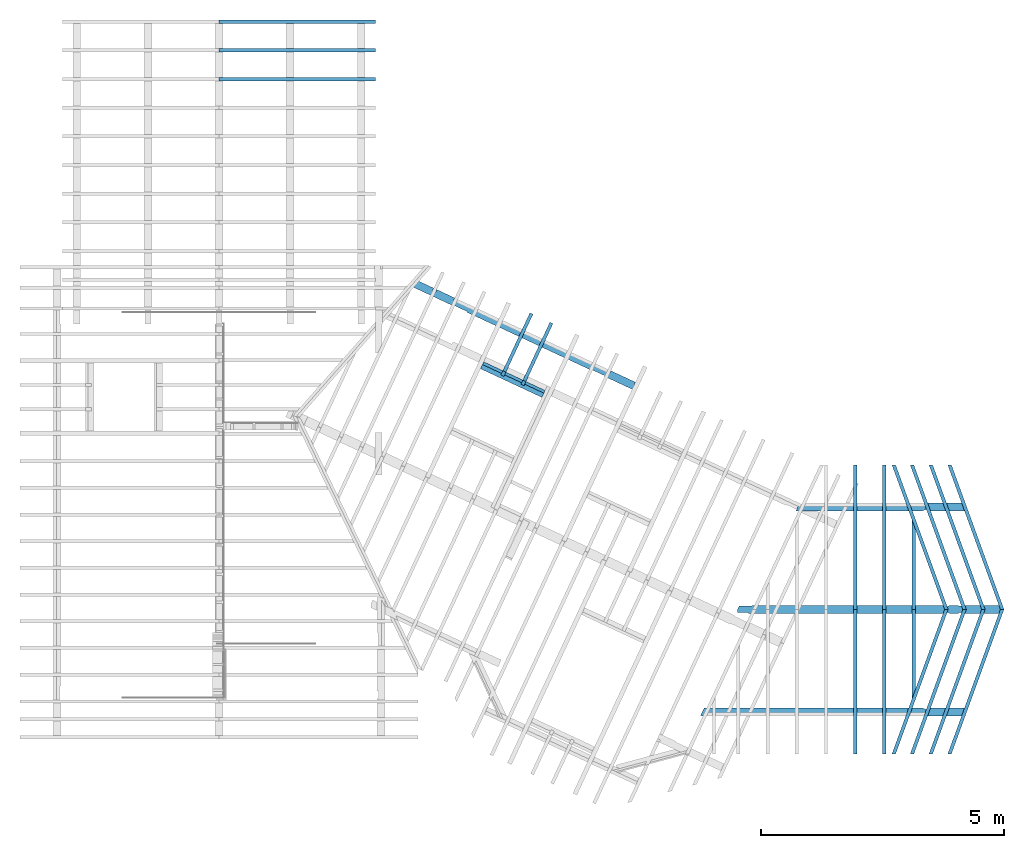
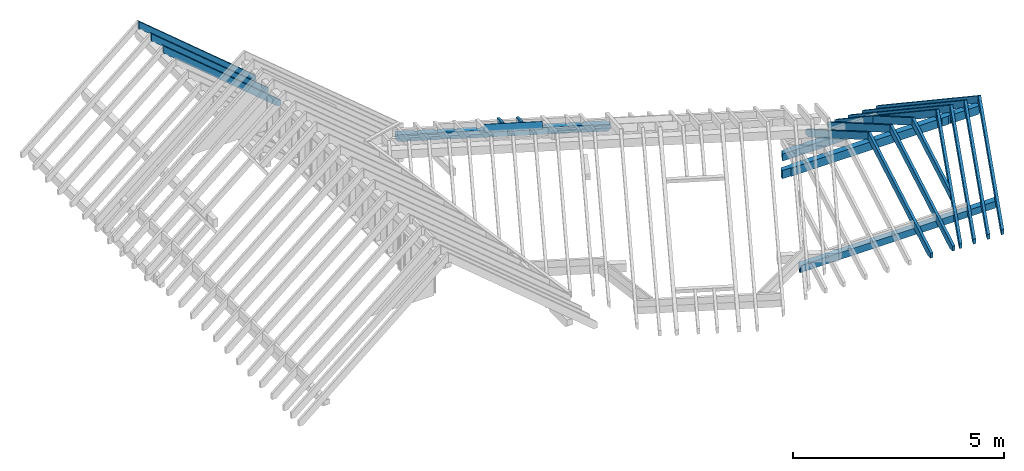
# One storey, part 7 of 11: 24 members.
"""IFC2X3 building model written with IfcOpenShell, lengths in metres."""

from ifc_helpers import new_model, si_unit, direction, frame, origin_with_axes, place, context, subcontext, project, spatial, faceted_brep, material, element, save


model = new_model("IFC2X3")

# Units and contexts
model_context = context("Model", 3, precision=1e-06, world=origin_with_axes(), true_north=direction((0.0, 1.0, 0.0)))
body_context = subcontext(model_context, "Body", "Model", "MODEL_VIEW")
ifc_project = project(units=[si_unit("LENGTHUNIT", "METRE"), si_unit("AREAUNIT", "SQUARE_METRE"), si_unit("VOLUMEUNIT", "CUBIC_METRE"), si_unit("PLANEANGLEUNIT", "RADIAN")], contexts=[model_context])

# Site, building, storey
site_placement = place(None, origin_with_axes())
site = spatial("IfcSite", under=ifc_project, at=site_placement, CompositionType="ELEMENT")
building_placement = place(site_placement, origin_with_axes())
building = spatial("IfcBuilding", under=site, at=building_placement, Name="Building 1", CompositionType="ELEMENT")
storey_placement = place(building_placement, origin_with_axes())
storey = spatial("IfcBuildingStorey", under=building, at=storey_placement, Name="Comble et couverture", CompositionType="ELEMENT", Elevation=0.0)

# Members
ifc_material = material(Name="NH II")
member_1_placement = place(storey_placement, frame((11.9552132, 6.3641322, 3.6128831), z_axis=(0.0, 0.0, 1.0), x_axis=(-0.9063078, 0.4226183, 0.0)))
element("IfcMember", 1, at=member_1_placement, inside=storey, material=ifc_material, Name="Panne", context=body_context, shape_type="Brep", body=[
    faceted_brep([(2.204806, -0.0284978, 0.1), (2.134806, -0.0284978, 0.1), (2.134806, -0.08, 0.0702652), (2.204806, -0.08, 0.0702652), (2.134806, -0.08, 0.1), (2.204806, -0.08, 0.1), (0.092, -0.08, 0.1), (0.092, -0.0285202, 0.1), (0.092, -0.08, 0.0702781), (0.0, -0.0285202, 0.1), (0.0, -0.08, 0.0702781), (1.631806, -0.08, 0.1), (2.588806, -0.08, 0.1), (2.588806, -0.0285258, 0.1), (2.658806, -0.0285258, 0.1), (2.658806, -0.08, 0.1), (3.091806, -0.08, 0.1), (3.091806, -0.0285538, 0.1), (3.183806, -0.0285538, 0.1), (3.183806, -0.08, 0.1), (3.6520107, -0.08, 0.1), (3.6520107, -0.0286209, 0.1), (3.7220107, -0.0286209, 0.1), (3.7220107, -0.08, 0.1), (4.116806, -0.08, 0.1), (4.116806, -0.0286209, 0.1), (4.186806, -0.0286209, 0.1), (4.186806, -0.08, 0.1), (4.5931996, -0.08, 0.1), (4.5931996, -0.0286041, 0.1), (4.6631996, -0.0286041, 0.1), (4.6631996, -0.08, 0.1), (5.1216218, -0.08, 0.1), (5.1216218, 0.08, 0.1), (4.115806, 0.08, 0.1), (4.115806, 0.065, 0.1), (3.835806, 0.065, 0.1), (3.835806, 0.08, 0.1), (0.995806, 0.08, 0.1), (0.995806, 0.065, 0.1), (0.715806, 0.065, 0.1), (0.715806, 0.08, 0.1), (0.0, 0.08, 0.1), (0.644806, -0.08, 0.1), (0.644806, -0.0286586, 0.1), (0.714806, -0.0286586, 0.1), (0.714806, -0.08, 0.1), (0.993806, -0.08, 0.1), (0.993806, -0.0286391, 0.1), (1.063806, -0.0286391, 0.1), (1.063806, -0.08, 0.1), (1.539806, -0.08, 0.1), (1.539806, -0.0284699, 0.1), (1.631806, -0.0284699, 0.1), (1.631806, -0.08, 0.0702491), (1.539806, -0.08, 0.0702491), (1.063806, -0.08, 0.0703468), (0.993806, -0.08, 0.0703468), (0.714806, -0.08, 0.070358), (0.644806, -0.08, 0.070358), (0.0, -0.08, -0.0333333), (0.0666667, -0.08, -0.1), (5.0549551, -0.08, -0.1), (5.1216218, -0.08, -0.0333333), (4.6631996, -0.08, 0.0703266), (4.5931996, -0.08, 0.0703266), (4.186806, -0.08, 0.0703362), (4.116806, -0.08, 0.0703362), (3.7220107, -0.08, 0.0703362), (3.6520107, -0.08, 0.0703362), (3.183806, -0.08, 0.0702975), (3.091806, -0.08, 0.0702975), (2.658806, -0.08, 0.0702814), (2.588806, -0.08, 0.0702814), (4.115806, 0.08, -0.1), (4.115806, 0.065, -0.1), (3.835806, 0.065, -0.1), (3.835806, 0.08, -0.1), (0.995806, 0.08, -0.1), (0.995806, 0.065, -0.1), (0.715806, 0.065, -0.1), (5.0549551, 0.08, -0.1), (0.0666667, 0.08, -0.1), (0.715806, 0.08, -0.1), (5.1216218, 0.08, -0.0333333), (0.0, 0.08, -0.0333333)], [[[0, 1, 2, 3]], [[1, 4, 2]], [[5, 0, 3]], [[6, 7, 8]], [[7, 9, 10, 8]], [[11, 4, 1, 0, 5, 12, 13, 14, 15, 16, 17, 18, 19, 20, 21, 22, 23, 24, 25, 26, 27, 28, 29, 30, 31, 32, 33, 34, 35, 36, 37, 38, 39, 40, 41, 42, 9, 7, 6, 43, 44, 45, 46, 47, 48, 49, 50, 51, 52, 53]], [[3, 2, 4, 11, 54, 55, 51, 50, 56, 57, 47, 46, 58, 59, 43, 6, 8, 10, 60, 61, 62, 63, 32, 31, 64, 65, 28, 27, 66, 67, 24, 23, 68, 69, 20, 19, 70, 71, 16, 15, 72, 73, 12, 5]], [[14, 13, 73, 72]], [[13, 12, 73]], [[15, 14, 72]], [[18, 17, 71, 70]], [[17, 16, 71]], [[19, 18, 70]], [[74, 75, 35, 34]], [[75, 76, 36, 35]], [[76, 77, 37, 36]], [[78, 79, 39, 38]], [[79, 80, 40, 39]], [[75, 74, 81, 62, 61, 82, 83, 80, 79, 78, 77, 76]], [[62, 81, 84, 63]], [[60, 85, 82, 61]], [[10, 9, 42, 85, 60]], [[11, 53, 54]], [[52, 51, 55]], [[53, 52, 55, 54]], [[46, 45, 58]], [[44, 43, 59]], [[45, 44, 59, 58]], [[50, 49, 56]], [[48, 47, 57]], [[49, 48, 57, 56]], [[23, 22, 68]], [[21, 20, 69]], [[22, 21, 69, 68]], [[27, 26, 66]], [[25, 24, 67]], [[26, 25, 67, 66]], [[31, 30, 64]], [[29, 28, 65]], [[30, 29, 65, 64]], [[63, 84, 33, 32]], [[80, 83, 41, 40]], [[41, 83, 82, 85, 42]], [[37, 77, 78, 38]], [[74, 34, 33, 84, 81]]]),
])
member_2_placement = place(storey_placement, frame((18.3486367, 4.8020575, 2.803611), z_axis=(-0.1630995, 0.4481121, 0.8789733), x_axis=(0.3006266, -0.8259647, 0.476871)))
element("IfcMember", 2, at=member_2_placement, inside=storey, material=ifc_material, Name="Chevron", context=body_context, shape_type="Brep", body=[
    faceted_brep([(0.0223944, 0.035, -0.0392061), (0.0, -0.035, -0.0270564), (0.066762, -0.035, 0.096), (0.0891564, 0.035, 0.0838503), (0.1270776, -0.035, -0.096), (0.9107993, -0.035, -0.096), (0.9234062, -0.035, -0.0727629), (0.9662371, -0.035, -0.096), (3.4593343, -0.035, -0.096), (3.4719412, -0.035, -0.0727629), (3.5147721, -0.035, -0.096), (3.5525586, -0.035, -0.096), (3.6567247, -0.035, 0.096), (0.1270776, 0.035, -0.096), (0.9397853, 0.035, -0.096), (3.6791191, 0.035, 0.0838503), (3.5815446, 0.035, -0.096), (3.5147721, 0.035, -0.096), (3.4943356, 0.035, -0.0849126), (3.4883203, 0.035, -0.096), (0.9662371, 0.035, -0.096), (0.9458006, 0.035, -0.0849126)], [[[0, 1, 2, 3]], [[2, 1, 4, 5, 6, 7, 8, 9, 10, 11, 12]], [[1, 0, 13, 4]], [[4, 13, 14, 5]], [[0, 3, 15, 16, 17, 18, 19, 20, 21, 14, 13]], [[3, 2, 12, 15]], [[14, 21, 6, 5]], [[21, 20, 7, 6]], [[7, 20, 19, 8]], [[15, 12, 11, 16]], [[19, 18, 9, 8]], [[18, 17, 10, 9]], [[16, 11, 10, 17]]]),
])
member_3_placement = place(storey_placement, frame((17.9628668, -1.1824983, 2.8036107), z_axis=(-0.1630995, -0.4481121, 0.8789733), x_axis=(0.3006266, 0.8259647, 0.476871)))
element("IfcMember", 3, at=member_3_placement, inside=storey, material=ifc_material, Name="Chevron", context=body_context, shape_type="Brep", body=[
    faceted_brep([(0.1270778, 0.035, -0.096), (0.1270778, -0.035, -0.096), (0.0223944, -0.035, -0.0392059), (0.0, 0.035, -0.0270563), (0.939786, -0.035, -0.096), (0.9458013, -0.035, -0.0849125), (0.9662378, -0.035, -0.096), (3.488321, -0.035, -0.096), (3.4943363, -0.035, -0.0849125), (3.5147728, -0.035, -0.096), (3.5815453, -0.035, -0.096), (3.6791198, -0.035, 0.0838503), (0.0891563, -0.035, 0.0838503), (0.9108, 0.035, -0.096), (0.0667619, 0.035, 0.096), (3.6567254, 0.035, 0.096), (3.5525593, 0.035, -0.096), (3.5147728, 0.035, -0.096), (3.4719419, 0.035, -0.0727628), (3.459335, 0.035, -0.096), (0.9662378, 0.035, -0.096), (0.9234069, 0.035, -0.0727629)], [[[0, 1, 2, 3]], [[2, 1, 4, 5, 6, 7, 8, 9, 10, 11, 12]], [[1, 0, 13, 4]], [[3, 2, 12, 14]], [[0, 3, 14, 15, 16, 17, 18, 19, 20, 21, 13]], [[14, 12, 11, 15]], [[13, 21, 5, 4]], [[21, 20, 6, 5]], [[15, 11, 10, 16]], [[6, 20, 19, 7]], [[9, 8, 18, 17]], [[8, 7, 19, 18]], [[16, 10, 9, 17]]]),
])
member_4_placement = place(storey_placement, frame((3.3033887, 13.29055, 5.0430385), z_axis=(0.6427876, 0.0, 0.7660444), x_axis=(0.7660444, 0.0, -0.6427876)))
element("IfcMember", 4, at=member_4_placement, inside=storey, material=ifc_material, Name="Chevron", context=body_context, shape_type="Brep", body=[
    faceted_brep([(0.0, 0.035, 0.0825), (0.0, -0.035, 0.0825), (4.1925587, -0.035, 0.0825), (4.1925587, 0.035, 0.0825), (0.2397267, -0.035, -0.0825), (0.2397267, 0.035, -0.0825), (4.2137207, 0.035, -0.0825), (4.2137207, -0.035, -0.0825), (0.1852763, -0.035, -0.0825), (0.2172291, -0.035, -0.0556884), (4.282549, -0.035, -0.0247462), (0.1384514, -0.035, -0.0825), (0.2172291, 0.035, -0.0556884), (0.1852763, 0.035, -0.0825), (0.1384514, 0.035, -0.0825), (4.282549, 0.035, -0.0247462)], [[[0, 1, 2, 3]], [[4, 5, 6, 7]], [[8, 9, 4, 7, 10, 2, 1, 11]], [[12, 13, 14, 0, 3, 15, 6, 5]], [[13, 12, 9, 8]], [[12, 5, 4, 9]], [[13, 8, 11, 14]], [[0, 14, 11, 1]], [[10, 15, 3, 2]], [[6, 15, 10, 7]]]),
])
member_5_placement = place(storey_placement, frame((13.2415605, -0.2952201, 3.08), z_axis=(0.0, 0.0, 1.0), x_axis=(1.0, 0.0, 0.0)))
element("IfcMember", 5, at=member_5_placement, inside=storey, material=ifc_material, Name="Panne", context=body_context, shape_type="Brep", body=[
    faceted_brep([(0.0044777, -0.0706342, -0.1), (0.0044777, -0.0706342, 0.1), (0.0001103, -0.08, 0.1), (0.0001103, -0.08, -0.1), (0.0, -0.08, 0.1), (0.0, -0.08, -0.1), (4.5613423, 0.08, 0.1), (0.0746092, 0.08, 0.1), (0.0245627, -0.08, 0.1), (0.2429925, -0.08, 0.1), (0.2429925, -0.0285537, 0.1), (0.3129925, -0.0285537, 0.1), (0.3129925, -0.08, 0.1), (0.7429925, -0.08, 0.1), (0.7429925, -0.0285537, 0.1), (0.8129925, -0.0285537, 0.1), (0.8129925, -0.08, 0.1), (1.3429925, -0.08, 0.1), (1.3429925, -0.0285537, 0.1), (1.4129925, -0.0285537, 0.1), (1.4129925, -0.08, 0.1), (1.9429925, -0.08, 0.1), (1.9429925, -0.0285537, 0.1), (2.0129925, -0.0285537, 0.1), (2.0129925, -0.08, 0.1), (2.5429925, -0.08, 0.1), (2.5429925, -0.0285537, 0.1), (2.6129925, -0.0285537, 0.1), (2.6129925, -0.08, 0.1), (3.1429925, -0.08, 0.1), (3.1429925, -0.0285537, 0.1), (3.2129925, -0.0285537, 0.1), (3.2129925, -0.08, 0.1), (3.7429925, -0.08, 0.1), (3.7429925, -0.0285537, 0.1), (3.8129925, -0.0285537, 0.1), (3.8129925, -0.08, 0.1), (5.4381473, -0.08, 0.1), (5.4963826, 0.08, 0.1), (4.6492867, 0.08, 0.1), (4.6389991, 0.0517352, 0.1), (0.0245627, -0.08, -0.1), (5.3672021, -0.08, -0.1), (5.4381473, -0.08, -0.0333333), (3.8129925, -0.08, 0.0702975), (3.7429925, -0.08, 0.0702975), (3.2129925, -0.08, 0.0702975), (3.1429925, -0.08, 0.0702975), (2.6129925, -0.08, 0.0702975), (2.5429925, -0.08, 0.0702975), (2.0129925, -0.08, 0.0702975), (1.9429925, -0.08, 0.0702975), (1.4129925, -0.08, 0.0702975), (1.3429925, -0.08, 0.0702975), (0.8129925, -0.08, 0.0702975), (0.7429925, -0.08, 0.0702975), (0.3129925, -0.08, 0.0702975), (0.2429925, -0.08, 0.0702975), (0.0746092, 0.08, -0.1), (4.5613423, 0.08, -0.1), (4.6389991, 0.0517352, -0.1), (4.6492867, 0.08, -0.1), (5.4254374, 0.08, -0.1), (5.4963826, 0.08, -0.0333333)], [[[0, 1, 2, 3]], [[4, 5, 3, 2]], [[6, 7, 4, 2, 1, 8, 9, 10, 11, 12, 13, 14, 15, 16, 17, 18, 19, 20, 21, 22, 23, 24, 25, 26, 27, 28, 29, 30, 31, 32, 33, 34, 35, 36, 37, 38, 39, 40]], [[1, 0, 41, 8]], [[8, 41, 42, 43, 37, 36, 44, 45, 33, 32, 46, 47, 29, 28, 48, 49, 25, 24, 50, 51, 21, 20, 52, 53, 17, 16, 54, 55, 13, 12, 56, 57, 9]], [[41, 0, 3, 5, 58, 59, 60, 61, 62, 42]], [[60, 59, 6, 40]], [[61, 60, 40, 39]], [[59, 58, 7, 6]], [[61, 39, 38, 63, 62]], [[43, 42, 62, 63]], [[58, 5, 4, 7]], [[36, 35, 44]], [[34, 33, 45]], [[35, 34, 45, 44]], [[32, 31, 46]], [[30, 29, 47]], [[31, 30, 47, 46]], [[28, 27, 48]], [[26, 25, 49]], [[27, 26, 49, 48]], [[24, 23, 50]], [[22, 21, 51]], [[23, 22, 51, 50]], [[20, 19, 52]], [[18, 17, 53]], [[19, 18, 53, 52]], [[13, 55, 14]], [[55, 54, 15, 14]], [[54, 16, 15]], [[9, 57, 10]], [[57, 56, 11, 10]], [[56, 12, 11]], [[43, 63, 38, 37]]]),
])
member_6_placement = place(storey_placement, frame((16.419553, 1.76478, 4.5486398), z_axis=(0.0, 0.5, 0.8660254), x_axis=(0.0, 0.8660254, -0.5)))
element("IfcMember", 6, at=member_6_placement, inside=storey, material=ifc_material, Name="Chevron", context=body_context, shape_type="Brep", body=[
    faceted_brep([(0.0, 0.035, 0.096), (0.0, -0.035, 0.096), (3.4238981, -0.035, 0.096), (3.4238981, 0.035, 0.096), (0.1108513, -0.035, -0.096), (0.1603581, -0.035, -0.096), (0.1899119, -0.035, -0.0789371), (0.1997631, -0.035, -0.096), (3.3713443, -0.035, -0.096), (3.4938981, -0.035, -0.0252436), (0.1108513, 0.035, -0.096), (3.4938981, 0.035, -0.0252436), (3.3713443, 0.035, -0.096), (0.1997631, 0.035, -0.096), (0.1899119, 0.035, -0.0789371), (0.1603581, 0.035, -0.096)], [[[0, 1, 2, 3]], [[1, 4, 5, 6, 7, 8, 9, 2]], [[10, 0, 3, 11, 12, 13, 14, 15]], [[7, 13, 12, 8]], [[4, 1, 0, 10]], [[15, 14, 6, 5]], [[14, 13, 7, 6]], [[4, 10, 15, 5]], [[9, 11, 3, 2]], [[8, 12, 11, 9]]]),
])
member_7_placement = place(storey_placement, frame((17.619553, 1.76478, 4.5486398), z_axis=(0.0, 0.5, 0.8660254), x_axis=(0.0, 0.8660254, -0.5)))
element("IfcMember", 7, at=member_7_placement, inside=storey, material=ifc_material, Name="Chevron", context=body_context, shape_type="Brep", body=[
    faceted_brep([(0.1108513, -0.035, -0.096), (0.0, -0.035, 0.096), (0.0, 0.035, 0.096), (0.1108513, 0.035, -0.096), (1.9000441, -0.035, 0.096), (2.12212, 0.035, 0.096), (0.1603581, -0.035, -0.096), (0.1899119, -0.035, -0.0789371), (0.1997631, -0.035, -0.096), (2.0108953, -0.035, -0.096), (0.1603581, 0.035, -0.096), (0.1899119, 0.035, -0.0789371), (0.1997631, 0.035, -0.096), (2.2329713, 0.035, -0.096)], [[[0, 1, 2, 3]], [[2, 1, 4, 5]], [[1, 0, 6, 7, 8, 9, 4]], [[10, 11, 7, 6]], [[11, 12, 8, 7]], [[8, 12, 13, 9]], [[0, 3, 10, 6]], [[13, 5, 4, 9]], [[3, 2, 5, 13, 12, 11, 10]]]),
])
member_8_placement = place(storey_placement, frame((17.019553, 1.8547799, 4.5486399), z_axis=(0.0, -0.5, 0.8660254), x_axis=(0.0, -0.8660254, -0.5)))
element("IfcMember", 8, at=member_8_placement, inside=storey, material=ifc_material, Name="Chevron", context=body_context, shape_type="Brep", body=[
    faceted_brep([(0.0, 0.035, 0.096), (0.0, -0.035, 0.096), (3.4238981, -0.035, 0.096), (3.4238981, 0.035, 0.096), (0.1108513, -0.035, -0.096), (0.1603581, -0.035, -0.096), (0.1899119, -0.035, -0.0789371), (0.1997631, -0.035, -0.096), (3.3713443, -0.035, -0.096), (3.4938981, -0.035, -0.0252436), (0.1108513, 0.035, -0.096), (3.4938981, 0.035, -0.0252436), (3.3713443, 0.035, -0.096), (0.1997631, 0.035, -0.096), (0.1899119, 0.035, -0.0789371), (0.1603581, 0.035, -0.096)], [[[0, 1, 2, 3]], [[1, 4, 5, 6, 7, 8, 9, 2]], [[10, 0, 3, 11, 12, 13, 14, 15]], [[7, 13, 12, 8]], [[10, 4, 1, 0]], [[4, 10, 15, 5]], [[7, 6, 14, 13]], [[6, 5, 15, 14]], [[9, 11, 3, 2]], [[8, 12, 11, 9]]]),
])
member_9_placement = place(storey_placement, frame((17.5770971, -1.1824983, 2.8036107), z_axis=(-0.1630995, -0.4481121, 0.8789733), x_axis=(0.3006266, 0.8259647, 0.476871)))
element("IfcMember", 9, at=member_9_placement, inside=storey, material=ifc_material, Name="Chevron", context=body_context, shape_type="Brep", body=[
    faceted_brep([(0.1270777, 0.035, -0.096), (0.1270777, -0.035, -0.096), (0.0223944, -0.035, -0.039206), (0.0, 0.035, -0.0270563), (0.939786, -0.035, -0.096), (0.9458013, -0.035, -0.0849126), (0.9662371, -0.035, -0.096), (3.488321, -0.035, -0.096), (3.4943363, -0.035, -0.0849125), (3.5147721, -0.035, -0.096), (3.5815453, -0.035, -0.096), (3.6791198, -0.035, 0.0838503), (0.0891563, -0.035, 0.0838503), (0.9108, 0.035, -0.096), (0.0667619, 0.035, 0.096), (3.6567254, 0.035, 0.096), (3.5525593, 0.035, -0.096), (3.5147721, 0.035, -0.096), (3.4719419, 0.035, -0.0727629), (3.459335, 0.035, -0.096), (0.9662371, 0.035, -0.096), (0.9234069, 0.035, -0.0727629)], [[[0, 1, 2, 3]], [[2, 1, 4, 5, 6, 7, 8, 9, 10, 11, 12]], [[1, 0, 13, 4]], [[3, 2, 12, 14]], [[0, 3, 14, 15, 16, 17, 18, 19, 20, 21, 13]], [[14, 12, 11, 15]], [[13, 21, 5, 4]], [[21, 20, 6, 5]], [[15, 11, 10, 16]], [[6, 20, 19, 7]], [[9, 8, 18, 17]], [[8, 7, 19, 18]], [[16, 10, 9, 17]]]),
])
member_10_placement = place(storey_placement, frame((8.7574993, 6.8224489, 4.3806407), z_axis=(0.2113091, 0.4531539, 0.8660254), x_axis=(0.9063078, -0.4226183, 0.0)))
element("IfcMember", 10, at=member_10_placement, inside=storey, material=ifc_material, Name="Chevetre", context=body_context, shape_type="Brep", body=[
    faceted_brep([(0.0, 0.035, -0.096), (0.0, -0.035, -0.096), (0.0, -0.035, 0.096), (0.0, 0.035, 0.096), (1.39, -0.035, -0.096), (1.39, -0.035, 0.096), (1.39, 0.035, -0.096), (1.39, 0.035, 0.096)], [[[0, 1, 2, 3]], [[2, 1, 4, 5]], [[1, 0, 6, 4]], [[6, 7, 5, 4]], [[3, 2, 5, 7]], [[0, 3, 7, 6]]]),
])
member_11_placement = place(storey_placement, frame((18.3486364, -1.1824983, 2.8036107), z_axis=(-0.1630995, -0.4481121, 0.8789733), x_axis=(0.3006266, 0.8259647, 0.476871)))
element("IfcMember", 11, at=member_11_placement, inside=storey, material=ifc_material, Name="Chevron", context=body_context, shape_type="Brep", body=[
    faceted_brep([(0.1270778, 0.035, -0.096), (0.1270778, -0.035, -0.096), (0.0223944, -0.035, -0.0392059), (0.0, 0.035, -0.0270563), (0.939786, -0.035, -0.096), (0.9458013, -0.035, -0.0849125), (0.9662378, -0.035, -0.096), (3.488321, -0.035, -0.096), (3.4943363, -0.035, -0.0849125), (3.5147728, -0.035, -0.096), (3.5815453, -0.035, -0.096), (3.6791198, -0.035, 0.0838503), (0.0891563, -0.035, 0.0838503), (0.9108, 0.035, -0.096), (0.0667619, 0.035, 0.096), (3.6567254, 0.035, 0.096), (3.5525593, 0.035, -0.096), (3.5147728, 0.035, -0.096), (3.4719419, 0.035, -0.0727628), (3.459335, 0.035, -0.096), (0.9662378, 0.035, -0.096), (0.9234069, 0.035, -0.0727629)], [[[0, 1, 2, 3]], [[2, 1, 4, 5, 6, 7, 8, 9, 10, 11, 12]], [[1, 0, 13, 4]], [[3, 2, 12, 14]], [[0, 3, 14, 15, 16, 17, 18, 19, 20, 21, 13]], [[14, 12, 11, 15]], [[13, 21, 5, 4]], [[21, 20, 6, 5]], [[15, 11, 10, 16]], [[6, 20, 19, 7]], [[9, 8, 18, 17]], [[8, 7, 19, 18]], [[16, 10, 9, 17]]]),
])
member_12_placement = place(storey_placement, frame((17.2026993, 4.8020575, 2.803611), z_axis=(-0.1630995, 0.4481121, 0.8789733), x_axis=(0.3006266, -0.8259647, 0.476871)))
element("IfcMember", 12, at=member_12_placement, inside=storey, material=ifc_material, Name="Chevron", context=body_context, shape_type="Brep", body=[
    faceted_brep([(0.0223944, 0.035, -0.0392061), (0.0, -0.035, -0.0270564), (0.066762, -0.035, 0.096), (0.0891564, 0.035, 0.0838503), (0.1270776, -0.035, -0.096), (0.9107993, -0.035, -0.096), (0.9234062, -0.035, -0.0727629), (0.9662371, -0.035, -0.096), (3.4593343, -0.035, -0.096), (3.4719412, -0.035, -0.0727629), (3.5147721, -0.035, -0.096), (3.5525586, -0.035, -0.096), (3.6567247, -0.035, 0.096), (0.1270776, 0.035, -0.096), (0.9397853, 0.035, -0.096), (3.6791191, 0.035, 0.0838503), (3.5815446, 0.035, -0.096), (3.5147721, 0.035, -0.096), (3.4943356, 0.035, -0.0849126), (3.4883203, 0.035, -0.096), (0.9662371, 0.035, -0.096), (0.9458006, 0.035, -0.0849126)], [[[0, 1, 2, 3]], [[2, 1, 4, 5, 6, 7, 8, 9, 10, 11, 12]], [[1, 0, 13, 4]], [[4, 13, 14, 5]], [[0, 3, 15, 16, 17, 18, 19, 20, 21, 14, 13]], [[3, 2, 12, 15]], [[14, 21, 6, 5]], [[21, 20, 7, 6]], [[7, 20, 19, 8]], [[15, 12, 11, 16]], [[19, 18, 9, 8]], [[18, 17, 10, 9]], [[16, 11, 10, 17]]]),
])
member_13_placement = place(storey_placement, frame((17.5770973, 4.8020575, 2.803611), z_axis=(-0.1630995, 0.4481121, 0.8789733), x_axis=(0.3006266, -0.8259647, 0.476871)))
element("IfcMember", 13, at=member_13_placement, inside=storey, material=ifc_material, Name="Chevron", context=body_context, shape_type="Brep", body=[
    faceted_brep([(0.0223944, 0.035, -0.039206), (0.0, -0.035, -0.0270563), (0.066762, -0.035, 0.096), (0.0891564, 0.035, 0.0838504), (0.1270776, -0.035, -0.096), (0.9107993, -0.035, -0.096), (0.9234062, -0.035, -0.0727629), (0.9662371, -0.035, -0.096), (3.4593343, -0.035, -0.096), (3.4719412, -0.035, -0.0727628), (3.5147721, -0.035, -0.096), (3.5525585, -0.035, -0.096), (3.6567247, -0.035, 0.096), (0.1270776, 0.035, -0.096), (0.9397853, 0.035, -0.096), (3.6791191, 0.035, 0.0838504), (3.5815445, 0.035, -0.096), (3.5147721, 0.035, -0.096), (3.4943356, 0.035, -0.0849125), (3.4883203, 0.035, -0.096), (0.9662378, 0.035, -0.096), (0.9458006, 0.035, -0.0849125)], [[[0, 1, 2, 3]], [[2, 1, 4, 5, 6, 7, 8, 9, 10, 11, 12]], [[1, 0, 13, 4]], [[4, 13, 14, 5]], [[0, 3, 15, 16, 17, 18, 19, 20, 21, 14, 13]], [[3, 2, 12, 15]], [[7, 6, 21, 20]], [[6, 5, 14, 21]], [[7, 20, 19, 8]], [[15, 12, 11, 16]], [[10, 9, 18, 17]], [[9, 8, 19, 18]], [[16, 11, 10, 17]]]),
])
member_14_placement = place(storey_placement, frame((14.0044591, 1.8097799, 4.2753223), z_axis=(0.0, 0.0, 1.0), x_axis=(1.0, 0.0, 0.0)))
element("IfcMember", 14, at=member_14_placement, inside=storey, material=ifc_material, Name="Panne", context=body_context, shape_type="Brep", body=[
    faceted_brep([(4.3575519, -0.08, 0.12), (4.3053802, -0.0610111, 0.12), (4.3053802, -0.0610111, -0.12), (4.3575519, -0.08, -0.12), (4.2984688, -0.08, 0.12), (4.2984688, -0.08, -0.12), (3.6500939, -0.08, 0.12), (3.6500939, -0.08, 0.11), (3.5800939, -0.08, 0.11), (3.5800939, -0.08, 0.12), (3.0500939, -0.08, 0.12), (3.0500939, -0.08, 0.11), (2.9800939, -0.08, 0.11), (2.9800939, -0.08, 0.12), (2.4500939, -0.08, 0.12), (2.4500939, -0.08, 0.11), (2.3800939, -0.08, 0.11), (2.3800939, -0.08, 0.12), (1.8500939, -0.08, 0.12), (1.8500939, -0.08, 0.11), (1.7800939, -0.08, 0.11), (1.7800939, -0.08, 0.12), (1.2500939, -0.08, 0.12), (1.2500939, -0.08, 0.11), (1.1800939, -0.08, 0.11), (1.1800939, -0.08, 0.12), (0.6500939, -0.08, 0.12), (0.6500939, -0.08, 0.11), (0.5800939, -0.08, 0.11), (0.5800939, -0.08, 0.12), (0.2278804, -0.08, 0.12), (0.2278804, -0.08, -0.12), (4.5325878, -0.08, -0.12), (4.5325878, -0.08, 0.12), (0.2278804, -0.065, -0.12), (0.0, -0.065, -0.12), (0.0, 0.0, -0.12), (0.03031, 0.065, -0.12), (0.295495, 0.065, -0.12), (0.295495, 0.08, -0.12), (4.2984687, 0.08, -0.12), (4.3053802, 0.0610109, -0.12), (4.3575522, 0.08, -0.12), (4.5325878, 0.08, -0.12), (4.5325878, 0.065, -0.12), (4.5987055, 0.065, -0.12), (4.5987055, 0.08, -0.12), (5.3562719, 0.08, -0.12), (5.3853895, 0.0, -0.12), (5.3562719, -0.08, -0.12), (4.5987055, -0.08, -0.12), (4.5987056, -0.065, -0.12), (4.5325878, -0.065, -0.12), (4.3053802, 0.0610109, 0.12), (4.3575522, 0.08, 0.12), (4.2984687, 0.08, 0.12), (0.295495, 0.08, 0.12), (0.5800939, 0.08, 0.12), (0.5800939, 0.08, 0.11), (0.6500939, 0.08, 0.11), (0.6500939, 0.08, 0.12), (1.1800939, 0.08, 0.12), (1.1800939, 0.08, 0.11), (1.2500939, 0.08, 0.11), (1.2500939, 0.08, 0.12), (1.7800939, 0.08, 0.12), (1.7800939, 0.08, 0.11), (1.8500939, 0.08, 0.11), (1.8500939, 0.08, 0.12), (2.3800939, 0.08, 0.12), (2.3800939, 0.08, 0.11), (2.4500939, 0.08, 0.11), (2.4500939, 0.08, 0.12), (2.9800939, 0.08, 0.12), (2.9800939, 0.08, 0.11), (3.0500939, 0.08, 0.11), (3.0500939, 0.08, 0.12), (3.5800939, 0.08, 0.12), (3.5800939, 0.08, 0.11), (3.6500939, 0.08, 0.11), (3.6500939, 0.08, 0.12), (4.5325878, 0.08, 0.12), (4.5325878, -0.065, 0.12), (4.5987056, -0.065, 0.12), (4.5987055, -0.08, 0.12), (5.4414061, -0.08, 0.12), (5.4705238, 0.0, 0.12), (5.4414061, 0.08, 0.12), (4.5987055, 0.08, 0.12), (4.5987055, 0.065, 0.12), (4.5325878, 0.065, 0.12), (5.4414061, -0.08, -0.04), (5.4414061, 0.08, -0.04), (5.4705238, 0.0, -0.04), (0.0, 0.0, 0.12), (0.03031, 0.065, 0.12), (0.0, -0.065, 0.12), (0.295495, 0.065, 0.12), (0.2278804, -0.065, 0.12)], [[[0, 1, 2, 3]], [[1, 4, 5, 2]], [[5, 4, 6, 7, 8, 9, 10, 11, 12, 13, 14, 15, 16, 17, 18, 19, 20, 21, 22, 23, 24, 25, 26, 27, 28, 29, 30, 31]], [[0, 3, 32, 33]], [[3, 2, 5, 31, 34, 35, 36, 37, 38, 39, 40, 41, 42, 43, 44, 45, 46, 47, 48, 49, 50, 51, 52, 32]], [[42, 41, 53, 54]], [[41, 40, 55, 53]], [[55, 40, 39, 56, 57, 58, 59, 60, 61, 62, 63, 64, 65, 66, 67, 68, 69, 70, 71, 72, 73, 74, 75, 76, 77, 78, 79, 80]], [[42, 54, 81, 43]], [[1, 0, 33, 82, 83, 84, 85, 86, 87, 88, 89, 90, 81, 54, 53, 55, 80, 6, 4]], [[44, 43, 81, 90]], [[82, 33, 32, 52]], [[84, 83, 51, 50]], [[83, 82, 52, 51]], [[84, 50, 49, 91, 85]], [[46, 45, 89, 88]], [[45, 44, 90, 89]], [[46, 88, 87, 92, 47]], [[93, 48, 47, 92]], [[48, 93, 91, 49]], [[93, 92, 87, 86]], [[37, 36, 94, 95]], [[94, 36, 35, 96]], [[37, 95, 97, 38]], [[95, 94, 96, 98, 30, 29, 57, 56, 97]], [[35, 34, 98, 96]], [[34, 31, 30, 98]], [[39, 38, 97, 56]], [[60, 26, 25, 61]], [[64, 22, 21, 65]], [[68, 18, 17, 69]], [[72, 14, 13, 73]], [[76, 10, 9, 77]], [[10, 76, 75, 11]], [[73, 13, 12, 74]], [[74, 12, 11, 75]], [[69, 17, 16, 70]], [[14, 72, 71, 15]], [[70, 16, 15, 71]], [[65, 21, 20, 66]], [[18, 68, 67, 19]], [[66, 20, 19, 67]], [[61, 25, 24, 62]], [[22, 64, 63, 23]], [[62, 24, 23, 63]], [[57, 29, 28, 58]], [[26, 60, 59, 27]], [[58, 28, 27, 59]], [[77, 9, 8, 78]], [[6, 80, 79, 7]], [[78, 8, 7, 79]], [[91, 93, 86, 85]]]),
])
member_15_placement = place(storey_placement, frame((17.019553, 1.76478, 4.5486398), z_axis=(0.0, 0.5, 0.8660254), x_axis=(0.0, 0.8660254, -0.5)))
element("IfcMember", 15, at=member_15_placement, inside=storey, material=ifc_material, Name="Chevron", context=body_context, shape_type="Brep", body=[
    faceted_brep([(0.0, 0.035, 0.096), (0.0, -0.035, 0.096), (3.4238981, -0.035, 0.096), (3.4238981, 0.035, 0.096), (0.1108513, -0.035, -0.096), (0.1603581, -0.035, -0.096), (0.1899119, -0.035, -0.0789371), (0.1997631, -0.035, -0.096), (3.3713443, -0.035, -0.096), (3.4938981, -0.035, -0.0252436), (0.1108513, 0.035, -0.096), (3.4938981, 0.035, -0.0252436), (3.3713443, 0.035, -0.096), (0.1997631, 0.035, -0.096), (0.1899119, 0.035, -0.0789371), (0.1603581, 0.035, -0.096)], [[[0, 1, 2, 3]], [[1, 4, 5, 6, 7, 8, 9, 2]], [[10, 0, 3, 11, 12, 13, 14, 15]], [[7, 13, 12, 8]], [[4, 1, 0, 10]], [[15, 14, 6, 5]], [[14, 13, 7, 6]], [[4, 10, 15, 5]], [[9, 11, 3, 2]], [[8, 12, 11, 9]]]),
])
member_16_placement = place(storey_placement, frame((3.3033887, 13.8795, 5.0430385), z_axis=(0.6427876, 0.0, 0.7660444), x_axis=(0.7660444, 0.0, -0.6427876)))
element("IfcMember", 16, at=member_16_placement, inside=storey, material=ifc_material, Name="Chevron", context=body_context, shape_type="Brep", body=[
    faceted_brep([(0.0, 0.035, 0.0825), (0.0, -0.035, 0.0825), (4.1925587, -0.035, 0.0825), (4.1925587, 0.035, 0.0825), (0.2397267, -0.035, -0.0825), (0.2397267, 0.035, -0.0825), (4.2137207, 0.035, -0.0825), (4.2137207, -0.035, -0.0825), (0.1852763, -0.035, -0.0825), (0.2172291, -0.035, -0.0556884), (4.282549, -0.035, -0.0247462), (0.1384514, -0.035, -0.0825), (0.2172291, 0.035, -0.0556884), (0.1852763, 0.035, -0.0825), (0.1384514, 0.035, -0.0825), (4.282549, 0.035, -0.0247462)], [[[0, 1, 2, 3]], [[4, 5, 6, 7]], [[8, 9, 4, 7, 10, 2, 1, 11]], [[12, 13, 14, 0, 3, 15, 6, 5]], [[13, 12, 9, 8]], [[12, 5, 4, 9]], [[13, 8, 11, 14]], [[0, 14, 11, 1]], [[10, 15, 3, 2]], [[6, 15, 10, 7]]]),
])
member_17_placement = place(storey_placement, frame((18.7379431, 3.9147799, 3.08), z_axis=(0.0, 0.0, 1.0), x_axis=(-1.0, 0.0, 0.0)))
element("IfcMember", 17, at=member_17_placement, inside=storey, material=ifc_material, Name="Panne", context=body_context, shape_type="Brep", body=[
    faceted_brep([(3.4231344, -0.0472497, -0.1), (3.4648246, -0.0666902, -0.1), (3.4648246, -0.0666902, 0.1), (3.4231344, -0.0472497, 0.1), (3.4078627, -0.08, -0.1), (3.4078627, -0.08, 0.1), (2.9533901, -0.08, 0.1), (2.9533901, -0.08, 0.0702975), (2.8833901, -0.08, 0.0702975), (2.8833901, -0.08, 0.1), (2.3533901, -0.08, 0.1), (2.3533901, -0.08, 0.0702975), (2.2833901, -0.08, 0.0702975), (2.2833901, -0.08, 0.1), (1.7533901, -0.08, 0.1), (1.7533901, -0.08, 0.0702975), (1.6833901, -0.08, 0.0702975), (1.6833901, -0.08, 0.1), (0.0582352, -0.08, 0.1), (0.0582352, -0.08, -0.0333333), (0.1291804, -0.08, -0.1), (3.5332273, 0.08, 0.1), (0.9350405, 0.08, 0.1), (0.8573835, 0.0517352, 0.1), (0.847096, 0.08, 0.1), (0.0, 0.08, 0.1), (1.6833901, -0.0285537, 0.1), (1.7533901, -0.0285537, 0.1), (2.2833901, -0.0285537, 0.1), (2.3533901, -0.0285537, 0.1), (2.8833901, -0.0285537, 0.1), (2.9533901, -0.0285537, 0.1), (0.8573835, 0.0517352, -0.1), (0.847096, 0.08, -0.1), (0.9350405, 0.08, -0.1), (3.5332273, 0.08, -0.1), (0.0709452, 0.08, -0.1), (0.0, 0.08, -0.0333333)], [[[0, 1, 2, 3]], [[4, 0, 3, 5]], [[4, 5, 6, 7, 8, 9, 10, 11, 12, 13, 14, 15, 16, 17, 18, 19, 20]], [[5, 3, 2, 21, 22, 23, 24, 25, 18, 17, 26, 27, 14, 13, 28, 29, 10, 9, 30, 31, 6]], [[24, 23, 32, 33]], [[23, 22, 34, 32]], [[34, 22, 21, 35]], [[24, 33, 36, 37, 25]], [[0, 4, 20, 36, 33, 32, 34, 35, 1]], [[36, 20, 19, 37]], [[2, 1, 35, 21]], [[14, 27, 15]], [[26, 17, 16]], [[27, 26, 16, 15]], [[10, 29, 11]], [[28, 13, 12]], [[29, 28, 12, 11]], [[6, 31, 7]], [[30, 9, 8]], [[31, 30, 8, 7]], [[37, 19, 18, 25]]]),
])
member_18_placement = place(storey_placement, frame((17.619553, -0.0790299, 3.4321542), z_axis=(0.0, -0.5, 0.8660254), x_axis=(0.0, 0.8660254, 0.5)))
element("IfcMember", 18, at=member_18_placement, inside=storey, material=ifc_material, Name="Chevron", context=body_context, shape_type="Brep", body=[
    faceted_brep([(2.12212, -0.035, -0.096), (2.12212, 0.035, -0.096), (2.2329713, 0.035, 0.096), (2.2329713, -0.035, 0.096), (2.0726131, 0.035, -0.096), (2.0430593, 0.035, -0.0789371), (2.033208, 0.035, -0.096), (0.0, 0.035, -0.096), (0.1108513, 0.035, 0.096), (2.0726131, -0.035, -0.096), (2.0430593, -0.035, -0.0789371), (2.0332081, -0.035, -0.096), (0.222076, -0.035, -0.096), (0.3329272, -0.035, 0.096)], [[[0, 1, 2, 3]], [[2, 1, 4, 5, 6, 7, 8]], [[1, 0, 9, 4]], [[6, 5, 10, 11]], [[5, 4, 9, 10]], [[6, 11, 12, 7]], [[0, 3, 13, 12, 11, 10, 9]], [[12, 13, 8, 7]], [[3, 2, 8, 13]]]),
])
member_19_placement = place(storey_placement, frame((3.3033887, 12.7016, 5.0430385), z_axis=(0.6427876, 0.0, 0.7660444), x_axis=(0.7660444, 0.0, -0.6427876)))
element("IfcMember", 19, at=member_19_placement, inside=storey, material=ifc_material, Name="Chevron", context=body_context, shape_type="Brep", body=[
    faceted_brep([(0.0, 0.035, 0.0825), (0.0, -0.035, 0.0825), (4.1925587, -0.035, 0.0825), (4.1925587, 0.035, 0.0825), (0.2397267, -0.035, -0.0825), (0.2397267, 0.035, -0.0825), (4.2137207, 0.035, -0.0825), (4.2137207, -0.035, -0.0825), (0.1852763, -0.035, -0.0825), (0.2172291, -0.035, -0.0556884), (4.282549, -0.035, -0.0247462), (0.1384514, -0.035, -0.0825), (0.2172291, 0.035, -0.0556884), (0.1852763, 0.035, -0.0825), (0.1384514, 0.035, -0.0825), (4.282549, 0.035, -0.0247462)], [[[0, 1, 2, 3]], [[4, 5, 6, 7]], [[8, 9, 4, 7, 10, 2, 1, 11]], [[12, 13, 14, 0, 3, 15, 6, 5]], [[13, 12, 9, 8]], [[12, 5, 4, 9]], [[13, 8, 11, 14]], [[0, 14, 11, 1]], [[10, 15, 3, 2]], [[6, 15, 10, 7]]]),
])
member_20_placement = place(storey_placement, frame((16.419553, 1.8547799, 4.5486399), z_axis=(0.0, -0.5, 0.8660254), x_axis=(0.0, -0.8660254, -0.5)))
element("IfcMember", 20, at=member_20_placement, inside=storey, material=ifc_material, Name="Chevron", context=body_context, shape_type="Brep", body=[
    faceted_brep([(0.0, 0.035, 0.096), (0.0, -0.035, 0.096), (3.4238981, -0.035, 0.096), (3.4238981, 0.035, 0.096), (0.1108513, -0.035, -0.096), (0.1603581, -0.035, -0.096), (0.1899119, -0.035, -0.0789371), (0.1997631, -0.035, -0.096), (3.3713443, -0.035, -0.096), (3.4938981, -0.035, -0.0252436), (0.1108513, 0.035, -0.096), (3.4938981, 0.035, -0.0252436), (3.3713443, 0.035, -0.096), (0.1997631, 0.035, -0.096), (0.1899119, 0.035, -0.0789371), (0.1603581, 0.035, -0.096)], [[[0, 1, 2, 3]], [[1, 4, 5, 6, 7, 8, 9, 2]], [[10, 0, 3, 11, 12, 13, 14, 15]], [[7, 13, 12, 8]], [[10, 4, 1, 0]], [[4, 10, 15, 5]], [[7, 6, 14, 13]], [[6, 5, 15, 14]], [[9, 11, 3, 2]], [[8, 12, 11, 9]]]),
])
member_21_placement = place(storey_placement, frame((9.1944796, 6.6521738, 4.3631286), z_axis=(0.2113091, 0.4531539, 0.8660254), x_axis=(0.3659982, 0.7848856, -0.5)))
element("IfcMember", 21, at=member_21_placement, inside=storey, material=ifc_material, Name="Chevron", context=body_context, shape_type="Brep", body=[
    faceted_brep([(0.0, 0.035, -0.096), (0.0, -0.035, -0.096), (0.0, -0.035, 0.096), (0.0, 0.035, 0.096), (1.5028685, -0.035, -0.096), (1.5955131, -0.035, -0.0425116), (1.5155433, -0.035, 0.096), (1.5028685, 0.035, -0.096), (1.5155433, 0.035, 0.096), (1.5955131, 0.035, -0.0425116)], [[[0, 1, 2, 3]], [[2, 1, 4, 5, 6]], [[1, 0, 7, 4]], [[0, 3, 8, 9, 7]], [[3, 2, 6, 8]], [[5, 9, 8, 6]], [[5, 4, 7, 9]]]),
])
member_22_placement = place(storey_placement, frame((17.202699, -1.1824983, 2.8036107), z_axis=(-0.1630995, -0.4481121, 0.8789733), x_axis=(0.3006266, 0.8259647, 0.476871)))
element("IfcMember", 22, at=member_22_placement, inside=storey, material=ifc_material, Name="Chevron", context=body_context, shape_type="Brep", body=[
    faceted_brep([(0.1270778, 0.035, -0.096), (0.1270778, -0.035, -0.096), (0.0223944, -0.035, -0.0392059), (0.0, 0.035, -0.0270563), (0.939786, -0.035, -0.096), (0.9458013, -0.035, -0.0849125), (0.9662378, -0.035, -0.096), (3.488321, -0.035, -0.096), (3.4943363, -0.035, -0.0849125), (3.5147728, -0.035, -0.096), (3.5815453, -0.035, -0.096), (3.6791198, -0.035, 0.0838503), (0.0891563, -0.035, 0.0838503), (0.9108, 0.035, -0.096), (0.0667619, 0.035, 0.096), (3.6567254, 0.035, 0.096), (3.5525593, 0.035, -0.096), (3.5147728, 0.035, -0.096), (3.4719419, 0.035, -0.0727628), (3.459335, 0.035, -0.096), (0.9662378, 0.035, -0.096), (0.9234069, 0.035, -0.0727629)], [[[0, 1, 2, 3]], [[2, 1, 4, 5, 6, 7, 8, 9, 10, 11, 12]], [[1, 0, 13, 4]], [[3, 2, 12, 14]], [[0, 3, 14, 15, 16, 17, 18, 19, 20, 21, 13]], [[14, 12, 11, 15]], [[13, 21, 5, 4]], [[21, 20, 6, 5]], [[15, 11, 10, 16]], [[6, 20, 19, 7]], [[9, 8, 18, 17]], [[8, 7, 19, 18]], [[16, 10, 9, 17]]]),
])
member_23_placement = place(storey_placement, frame((9.605925, 6.4602658, 4.3631165), z_axis=(0.2113091, 0.4531539, 0.8660254), x_axis=(0.3659982, 0.7848856, -0.5)))
element("IfcMember", 23, at=member_23_placement, inside=storey, material=ifc_material, Name="Chevron", context=body_context, shape_type="Brep", body=[
    faceted_brep([(0.0, 0.035, -0.096), (0.0, -0.035, -0.096), (0.0, -0.035, 0.096), (0.0, 0.035, 0.096), (1.5028685, -0.035, -0.096), (1.5954888, -0.035, -0.0425116), (1.5155433, -0.035, 0.096), (1.5028685, 0.035, -0.096), (1.5155433, 0.035, 0.096), (1.5954888, 0.035, -0.0425116)], [[[0, 1, 2, 3]], [[2, 1, 4, 5, 6]], [[1, 0, 7, 4]], [[0, 3, 8, 9, 7]], [[3, 2, 6, 8]], [[5, 9, 8, 6]], [[5, 4, 7, 9]]]),
])
member_24_placement = place(storey_placement, frame((17.962867, 4.8020575, 2.803611), z_axis=(-0.1630995, 0.4481121, 0.8789733), x_axis=(0.3006266, -0.8259647, 0.476871)))
element("IfcMember", 24, at=member_24_placement, inside=storey, material=ifc_material, Name="Chevron", context=body_context, shape_type="Brep", body=[
    faceted_brep([(0.0223944, 0.035, -0.039206), (0.0, -0.035, -0.0270563), (0.066762, -0.035, 0.096), (0.0891564, 0.035, 0.0838504), (0.1270776, -0.035, -0.096), (0.9107993, -0.035, -0.096), (0.9234062, -0.035, -0.0727629), (0.9662378, -0.035, -0.096), (3.4593343, -0.035, -0.096), (3.4719412, -0.035, -0.0727628), (3.5147721, -0.035, -0.096), (3.5525585, -0.035, -0.096), (3.6567247, -0.035, 0.096), (0.1270776, 0.035, -0.096), (0.9397853, 0.035, -0.096), (3.6791191, 0.035, 0.0838504), (3.5815445, 0.035, -0.096), (3.5147721, 0.035, -0.096), (3.4943356, 0.035, -0.0849125), (3.4883203, 0.035, -0.096), (0.9662378, 0.035, -0.096), (0.9458006, 0.035, -0.0849125)], [[[0, 1, 2, 3]], [[2, 1, 4, 5, 6, 7, 8, 9, 10, 11, 12]], [[1, 0, 13, 4]], [[4, 13, 14, 5]], [[0, 3, 15, 16, 17, 18, 19, 20, 21, 14, 13]], [[3, 2, 12, 15]], [[7, 6, 21, 20]], [[6, 5, 14, 21]], [[7, 20, 19, 8]], [[15, 12, 11, 16]], [[19, 18, 9, 8]], [[18, 17, 10, 9]], [[16, 11, 10, 17]]]),
])

save(model, "model.ifc")
